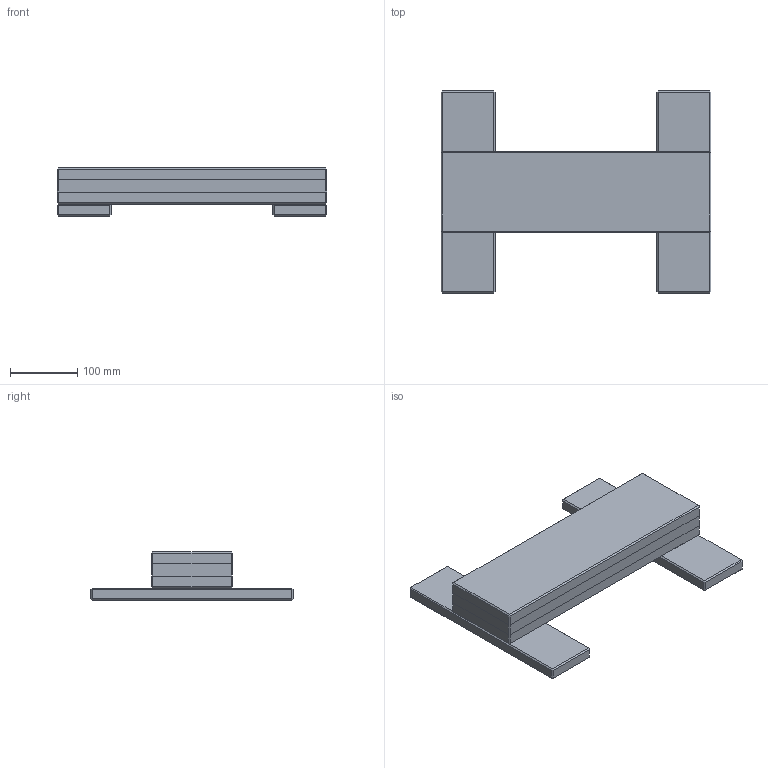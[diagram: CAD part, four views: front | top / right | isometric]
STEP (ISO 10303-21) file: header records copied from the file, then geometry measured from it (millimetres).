
FILE_DESCRIPTION(('Open CASCADE Model'),'2;1');
FILE_NAME('Open CASCADE Shape Model','2026-09-27T15:56:03',('Author'),( 'Open CASCADE'),'Open CASCADE STEP processor 7.9','Open CASCADE 7.9' ,'Unknown');
FILE_SCHEMA(('AUTOMOTIVE_DESIGN { 1 0 10303 214 1 1 1 1 }'));
Length unit declared in the file: millimetre
Products named in the file (6): balance-trainer-triple; foot-1; foot-2; rail-1; rail-2; rail-3
Assembly tree (5 placements, depth 2):
  balance-trainer-triple
    foot-1
    foot-2
    rail-1
    rail-2
    rail-3
Bounding box: 400 x 300 x 72 mm (x, y, z)
Volume: 3445168 mm3; surface area: 461031.6 mm2
Topology: 5 solids, 5 shells, 98 faces, 192 edges, 104 vertices
Faces by surface type: plane 98
Entity records: 4990 total; most frequent: CARTESIAN_POINT 784, DIRECTION 784, LINE 576, VECTOR 576, ORIENTED_EDGE 384, PCURVE 384, DEFINITIONAL_REPRESENTATION 384, EDGE_CURVE 192
